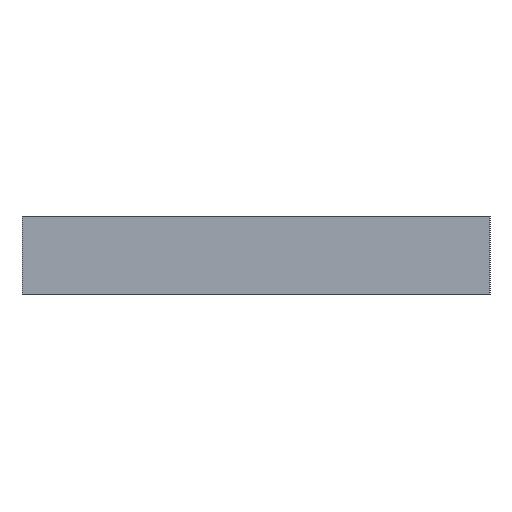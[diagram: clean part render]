
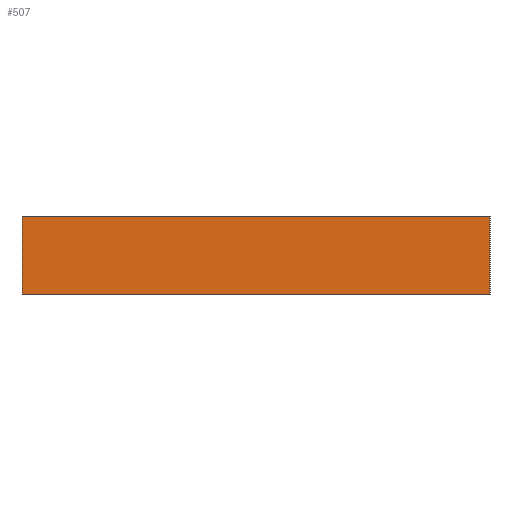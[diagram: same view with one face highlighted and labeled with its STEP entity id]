
A CAD part, left-side view. The second image highlights one B-rep face of the part: STEP entity #507.
In plain terms, the highlighted planar face has unit normal (-1, 0, 0).
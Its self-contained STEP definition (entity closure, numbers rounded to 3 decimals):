
#110 = CARTESIAN_POINT ( 'NONE',  ( -90.002, 60., 0. ) ) ;
#111 = LINE ( 'NONE', #112, #113 ) ;
#112 = CARTESIAN_POINT ( 'NONE',  ( -90.002, 60., 20. ) ) ;
#113 = VECTOR ( 'NONE', #114, 1000. ) ;
#114 = DIRECTION ( 'NONE',  ( 0., -1., 0. ) ) ;
#115 = LINE ( 'NONE', #116, #117 ) ;
#116 = CARTESIAN_POINT ( 'NONE',  ( -90.002, 60., 20. ) ) ;
#117 = VECTOR ( 'NONE', #118, 1000. ) ;
#118 = DIRECTION ( 'NONE',  ( 0., 0., -1. ) ) ;
#139 = CARTESIAN_POINT ( 'NONE',  ( -90.002, -60., 20. ) ) ;
#140 = LINE ( 'NONE', #141, #142 ) ;
#141 = CARTESIAN_POINT ( 'NONE',  ( -90.002, 60., 0. ) ) ;
#142 = VECTOR ( 'NONE', #143, 1000. ) ;
#143 = DIRECTION ( 'NONE',  ( 0., -1., 0. ) ) ;
#257 = ORIENTED_EDGE ( 'NONE', *, *, #341, .T. ) ;
#259 = EDGE_CURVE ( 'NONE', #337, #361, #560, .T. ) ;
#317 = ORIENTED_EDGE ( 'NONE', *, *, #863, .T. ) ;
#326 = VERTEX_POINT ( 'NONE', #110 ) ;
#337 = VERTEX_POINT ( 'NONE', #139 ) ;
#341 = EDGE_CURVE ( 'NONE', #326, #361, #140, .T. ) ;
#348 = VERTEX_POINT ( 'NONE', #446 ) ;
#361 = VERTEX_POINT ( 'NONE', #580 ) ;
#364 = ORIENTED_EDGE ( 'NONE', *, *, #1019, .F. ) ;
#405 = EDGE_LOOP ( 'NONE', ( #257, #883, #364, #317 ) ) ;
#446 = CARTESIAN_POINT ( 'NONE',  ( -90.002, 60., 20. ) ) ;
#507 = ADVANCED_FACE ( 'NONE', ( #831 ), #832, .F. ) ;
#560 = LINE ( 'NONE', #561, #562 ) ;
#561 = CARTESIAN_POINT ( 'NONE',  ( -90.002, -60., 20. ) ) ;
#562 = VECTOR ( 'NONE', #563, 1000. ) ;
#563 = DIRECTION ( 'NONE',  ( 0., 0., -1. ) ) ;
#580 = CARTESIAN_POINT ( 'NONE',  ( -90.002, -60., 0. ) ) ;
#831 = FACE_OUTER_BOUND ( 'NONE', #405, .T. ) ;
#832 = PLANE ( 'NONE',  #833 ) ;
#833 = AXIS2_PLACEMENT_3D ( 'NONE', #834, #835, #836 ) ;
#834 = CARTESIAN_POINT ( 'NONE',  ( -90.002, 60., 20. ) ) ;
#835 = DIRECTION ( 'NONE',  ( 1., 0., 0. ) ) ;
#836 = DIRECTION ( 'NONE',  ( 0., 0., -1. ) ) ;
#863 = EDGE_CURVE ( 'NONE', #348, #326, #115, .T. ) ;
#883 = ORIENTED_EDGE ( 'NONE', *, *, #259, .F. ) ;
#1019 = EDGE_CURVE ( 'NONE', #348, #337, #111, .T. ) ;
